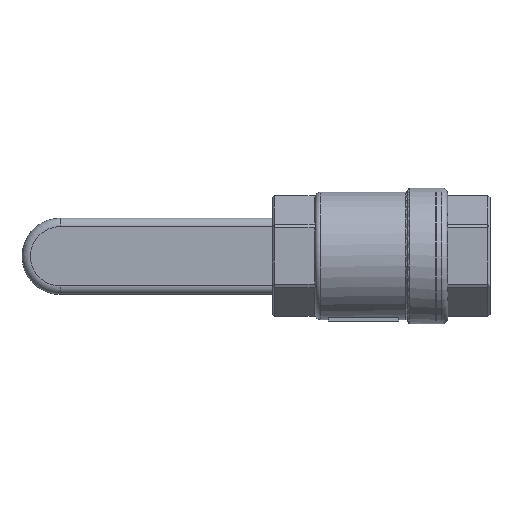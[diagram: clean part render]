
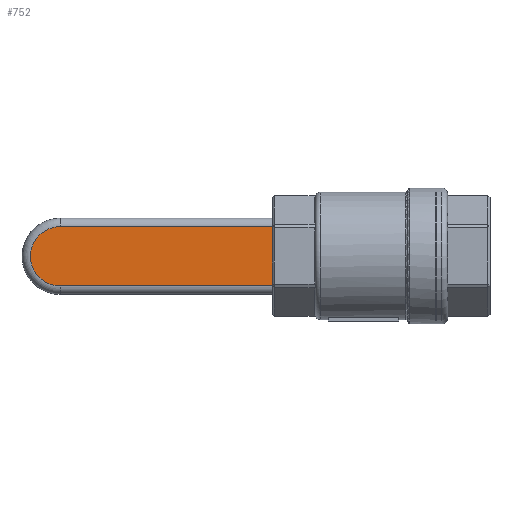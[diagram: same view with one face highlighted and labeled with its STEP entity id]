
A CAD part, top view. The second image highlights one B-rep face of the part: STEP entity #752.
In plain terms, the highlighted planar face has unit normal (0, 0, 1).
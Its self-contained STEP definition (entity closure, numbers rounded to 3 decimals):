
#752 = ADVANCED_FACE( '', ( #1647 ), #1648, .F. );
#1647 = FACE_OUTER_BOUND( '', #3381, .T. );
#1648 = PLANE( '', #3382 );
#3381 = EDGE_LOOP( '', ( #6957, #6958, #6959, #6960 ) );
#3382 = AXIS2_PLACEMENT_3D( '', #6961, #6962, #6963 );
#6957 = ORIENTED_EDGE( '', *, *, #8260, .T. );
#6958 = ORIENTED_EDGE( '', *, *, #8361, .T. );
#6959 = ORIENTED_EDGE( '', *, *, #8758, .F. );
#6960 = ORIENTED_EDGE( '', *, *, #8907, .T. );
#6961 = CARTESIAN_POINT( '', ( -152., 0., -60. ) );
#6962 = DIRECTION( '', ( 0., 0., -1. ) );
#6963 = DIRECTION( '', ( -1., 0., 0. ) );
#8260 = EDGE_CURVE( '', #9487, #9485, #9488, .F. );
#8361 = EDGE_CURVE( '', #9485, #9654, #9656, .F. );
#8758 = EDGE_CURVE( '', #10258, #9654, #10259, .T. );
#8907 = EDGE_CURVE( '', #10258, #9487, #10442, .F. );
#9485 = VERTEX_POINT( '', #11672 );
#9487 = VERTEX_POINT( '', #11674 );
#9488 = CIRCLE( '', #11675, 10.5 );
#9654 = VERTEX_POINT( '', #12265 );
#9656 = LINE( '', #12267, #12268 );
#10258 = VERTEX_POINT( '', #13961 );
#10259 = LINE( '', #13962, #13963 );
#10442 = LINE( '', #14382, #14383 );
#11672 = CARTESIAN_POINT( '', ( -152., -10.5, -60. ) );
#11674 = CARTESIAN_POINT( '', ( -152., 10.5, -60. ) );
#11675 = AXIS2_PLACEMENT_3D( '', #15169, #15170, #15171 );
#12265 = CARTESIAN_POINT( '', ( -68., -10.5, -60. ) );
#12267 = CARTESIAN_POINT( '', ( -68., -10.5, -60. ) );
#12268 = VECTOR( '', #15245, 1000. );
#13961 = CARTESIAN_POINT( '', ( -68., 10.5, -60. ) );
#13962 = CARTESIAN_POINT( '', ( -68., 13.5, -60. ) );
#13963 = VECTOR( '', #15429, 1000. );
#14382 = CARTESIAN_POINT( '', ( -152., 10.5, -60. ) );
#14383 = VECTOR( '', #15506, 1000. );
#15169 = CARTESIAN_POINT( '', ( -152., 0., -60. ) );
#15170 = DIRECTION( '', ( 0., 0., -1. ) );
#15171 = DIRECTION( '', ( -1., 0., 0. ) );
#15245 = DIRECTION( '', ( -1., 0., 0. ) );
#15429 = DIRECTION( '', ( 0., -1., 0. ) );
#15506 = DIRECTION( '', ( 1., 0., 0. ) );
